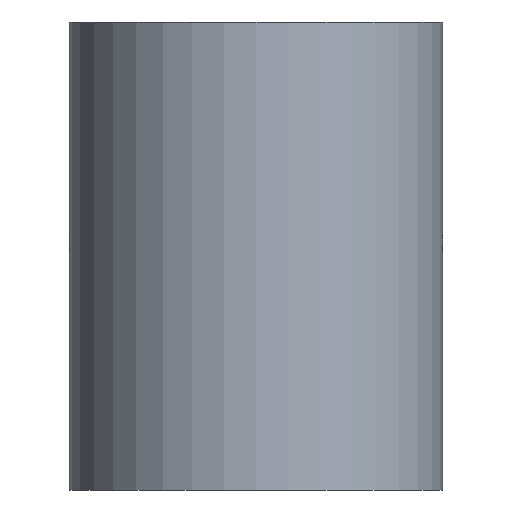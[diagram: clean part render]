
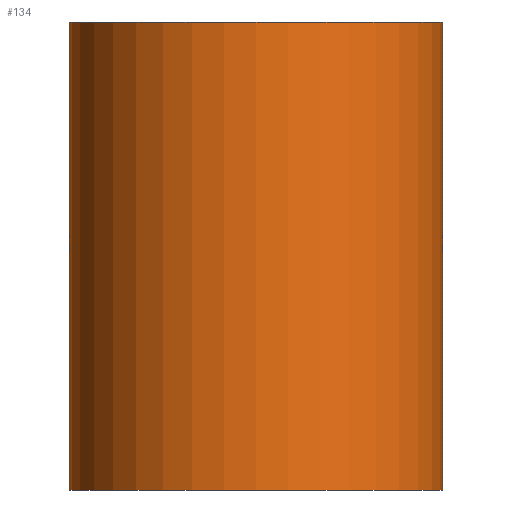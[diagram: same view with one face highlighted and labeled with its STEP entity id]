
A CAD part, left-side view. The second image highlights one B-rep face of the part: STEP entity #134.
In plain terms, the highlighted cylindrical face has radius 45.5 mm (diameter 91 mm), a partial arc.
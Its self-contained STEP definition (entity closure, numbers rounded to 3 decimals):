
#10 = CARTESIAN_POINT ( 'NONE',  ( 0., 0., 0. ) ) ;
#26 = CIRCLE ( 'NONE', #374, 45.5 ) ;
#27 = ORIENTED_EDGE ( 'NONE', *, *, #144, .T. ) ;
#29 = ORIENTED_EDGE ( 'NONE', *, *, #237, .F. ) ;
#38 = AXIS2_PLACEMENT_3D ( 'NONE', #329, #101, #210 ) ;
#43 = CARTESIAN_POINT ( 'NONE',  ( 0., -45.5, 0. ) ) ;
#46 = CARTESIAN_POINT ( 'NONE',  ( 0., 45.5, 0. ) ) ;
#71 = ORIENTED_EDGE ( 'NONE', *, *, #119, .F. ) ;
#81 = DIRECTION ( 'NONE',  ( 1., 0., 0. ) ) ;
#82 = ORIENTED_EDGE ( 'NONE', *, *, #279, .T. ) ;
#97 = VECTOR ( 'NONE', #352, 1000. ) ;
#101 = DIRECTION ( 'NONE',  ( 0., 0., 1. ) ) ;
#114 = DIRECTION ( 'NONE',  ( 0., 0., 1. ) ) ;
#119 = EDGE_CURVE ( 'NONE', #368, #245, #357, .T. ) ;
#124 = VERTEX_POINT ( 'NONE', #289 ) ;
#134 = ADVANCED_FACE ( 'NONE', ( #420 ), #390, .T. ) ;
#144 = EDGE_CURVE ( 'NONE', #124, #371, #369, .T. ) ;
#162 = CARTESIAN_POINT ( 'NONE',  ( 0., -45.5, -114. ) ) ;
#172 = CARTESIAN_POINT ( 'NONE',  ( 0., 45.5, -114. ) ) ;
#181 = DIRECTION ( 'NONE',  ( 0., 0., 1. ) ) ;
#210 = DIRECTION ( 'NONE',  ( 1., 0., 0. ) ) ;
#237 = EDGE_CURVE ( 'NONE', #245, #371, #26, .T. ) ;
#245 = VERTEX_POINT ( 'NONE', #46 ) ;
#252 = CIRCLE ( 'NONE', #280, 45.5 ) ;
#279 = EDGE_CURVE ( 'NONE', #368, #124, #252, .T. ) ;
#280 = AXIS2_PLACEMENT_3D ( 'NONE', #290, #181, #81 ) ;
#288 = VECTOR ( 'NONE', #341, 1000. ) ;
#289 = CARTESIAN_POINT ( 'NONE',  ( 0., -45.5, -114. ) ) ;
#290 = CARTESIAN_POINT ( 'NONE',  ( 0., 0., -114. ) ) ;
#329 = CARTESIAN_POINT ( 'NONE',  ( 0., 0., -114. ) ) ;
#341 = DIRECTION ( 'NONE',  ( 0., 0., 1. ) ) ;
#352 = DIRECTION ( 'NONE',  ( 0., 0., 1. ) ) ;
#357 = LINE ( 'NONE', #172, #97 ) ;
#368 = VERTEX_POINT ( 'NONE', #421 ) ;
#369 = LINE ( 'NONE', #162, #288 ) ;
#371 = VERTEX_POINT ( 'NONE', #43 ) ;
#374 = AXIS2_PLACEMENT_3D ( 'NONE', #10, #114, #427 ) ;
#390 = CYLINDRICAL_SURFACE ( 'NONE', #38, 45.5 ) ;
#420 = FACE_OUTER_BOUND ( 'NONE', #438, .T. ) ;
#421 = CARTESIAN_POINT ( 'NONE',  ( 0., 45.5, -114. ) ) ;
#427 = DIRECTION ( 'NONE',  ( 1., 0., 0. ) ) ;
#438 = EDGE_LOOP ( 'NONE', ( #29, #71, #82, #27 ) ) ;
